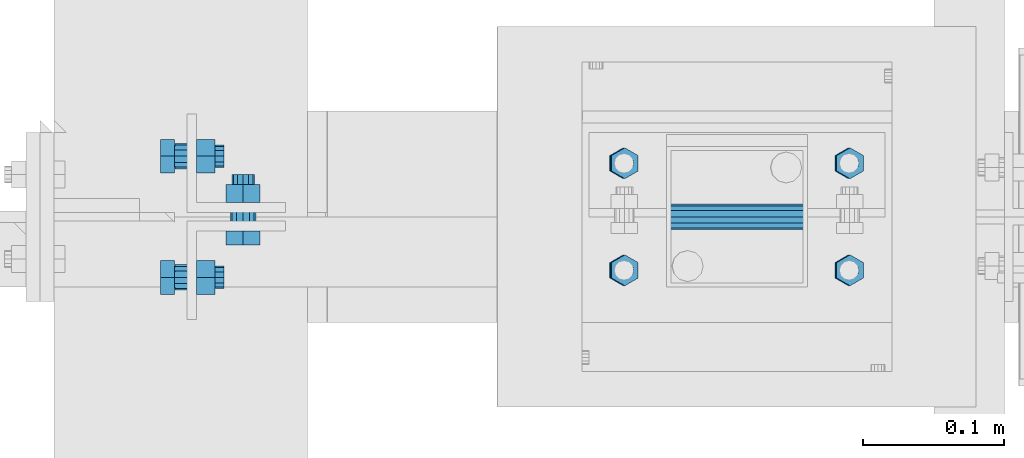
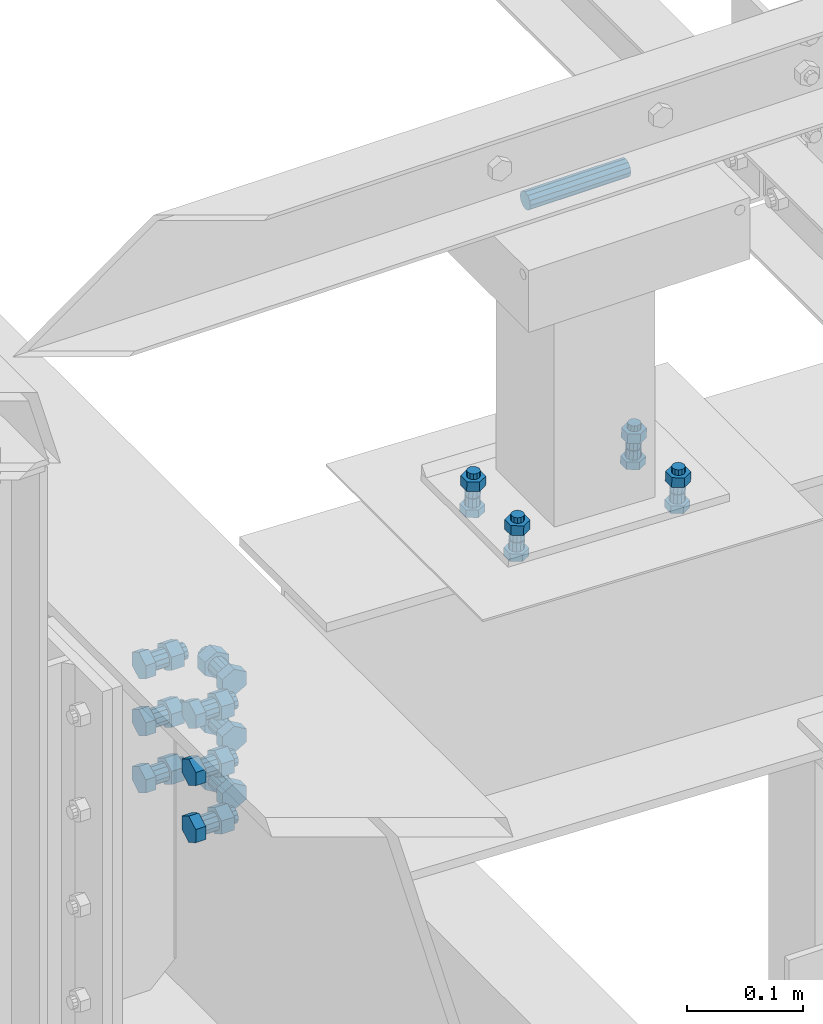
# One storey, part 61 of 3134: 5 mechanical fasteners, 3 elements without a shape of their own.
"""IFC2X3 building model written with IfcOpenShell, lengths in millimetres."""

from ifc_helpers import new_model, si_unit, frame, origin_with_axes, place, context, subcontext, project, spatial, faceted_brep, source, transform, mapped, material, type_object, element, aggregate, save


model = new_model("IFC2X3")

# Units and contexts
model_context = context("Model", 3, precision=1e-05, world=origin_with_axes())
body_context = subcontext(model_context, "Body", "Model", "MODEL_VIEW")
ifc_project = project(units=[si_unit("LENGTHUNIT", "METRE", prefix="MILLI"), si_unit("AREAUNIT", "SQUARE_METRE"), si_unit("VOLUMEUNIT", "CUBIC_METRE"), si_unit("MASSUNIT", "GRAM", prefix="KILO"), si_unit("TIMEUNIT", "SECOND"), si_unit("PLANEANGLEUNIT", "RADIAN"), si_unit("SOLIDANGLEUNIT", "STERADIAN"), si_unit("THERMODYNAMICTEMPERATUREUNIT", "DEGREE_CELSIUS"), si_unit("LUMINOUSINTENSITYUNIT", "LUMEN")], contexts=[model_context])

# Site, building, storey
site_placement = place(None, origin_with_axes())
site = spatial("IfcSite", under=ifc_project, at=site_placement, CompositionType="ELEMENT")
building_placement = place(site_placement, origin_with_axes())
building = spatial("IfcBuilding", under=site, at=building_placement, Name="Undefined", CompositionType="ELEMENT")
storey_placement = place(building_placement, origin_with_axes())
storey = spatial("IfcBuildingStorey", under=building, at=storey_placement, Name="Undefined", CompositionType="ELEMENT", Elevation=0.0)

# Assembly, mechanical fastener
assembly_1_placement = place(storey_placement, origin_with_axes())
assembly_1 = element("IfcElementAssembly", 1, at=assembly_1_placement, inside=storey, AssemblyPlace="NOTDEFINED", PredefinedType="RIGID_FRAME")
ifc_material = material(Name="8.8")
mechanical_fastener_type = type_object("IfcMechanicalFastenerType", Name="Bolt assembly")
shared_shape_1 = source(origin_with_axes(), body_context, "Body", "Brep", [
    faceted_brep([(13.856406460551, -18.5936482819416, 0.0), (6.92820323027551, -18.5936482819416, 12.0), (-6.92820323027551, -18.5936482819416, 12.0), (-13.856406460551, -18.5936482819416, 1.69692038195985e-15), (-6.92820323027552, -18.5936482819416, -12.0), (6.9282032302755, -18.5936482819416, -12.0), (6.9282032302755, -8.59364828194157, -12.0), (-6.92820323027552, -8.59364828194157, -12.0), (-13.856406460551, -8.59364828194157, 1.69692038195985e-15), (-6.92820323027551, -8.59364828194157, 12.0), (6.92820323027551, -8.59364828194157, 12.0), (13.856406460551, -8.59364828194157, 0.0), (8.0, -8.59364828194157, 0.0), (6.92820323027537, -8.59364828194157, 4.00000000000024), (3.99999999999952, -8.59364828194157, 6.92820323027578), (-8.29068785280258e-13, -8.59364828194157, 8.0), (-4.00000000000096, -8.59364828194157, 6.92820323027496), (-6.9282032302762, -8.59364828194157, 3.99999999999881), (-8.0, -8.59364828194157, -1.65813757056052e-12), (-6.92820323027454, -8.59364828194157, -4.00000000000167), (-3.99999999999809, -8.59364828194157, -6.92820323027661), (2.47832457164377e-12, -8.59364828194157, -8.0), (4.00000000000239, -8.59364828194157, -6.92820323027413), (6.92820323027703, -8.59364828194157, -3.99999999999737), (6.92820323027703, 26.4063517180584, -3.99999999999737), (4.00000000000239, 26.4063517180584, -6.92820323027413), (2.47832457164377e-12, 26.4063517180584, -8.0), (-3.99999999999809, 26.4063517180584, -6.92820323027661), (-6.92820323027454, 26.4063517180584, -4.00000000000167), (-8.0, 26.4063517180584, -1.65813757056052e-12), (-6.9282032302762, 26.4063517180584, 3.99999999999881), (-4.00000000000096, 26.4063517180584, 6.92820323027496), (-8.29068785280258e-13, 26.4063517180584, 8.0), (3.99999999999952, 26.4063517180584, 6.92820323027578), (6.92820323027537, 26.4063517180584, 4.00000000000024), (8.0, 26.4063517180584, 0.0), (13.856406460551, 7.0, 0.0), (6.92820323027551, 7.0, 12.0), (-6.92820323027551, 7.0, 12.0), (-13.856406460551, 7.0, 1.69692038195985e-15), (-6.92820323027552, 7.0, -12.0), (6.9282032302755, 7.0, -12.0), (6.9282032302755, 20.0, -12.0), (-6.92820323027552, 20.0, -12.0), (-13.856406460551, 20.0, 1.69692038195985e-15), (-6.92820323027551, 20.0, 12.0), (6.92820323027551, 20.0, 12.0), (13.856406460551, 20.0, 0.0)], [[[0, 1, 2, 3, 4, 5]], [[6, 7, 8, 9, 10, 11]], [[0, 11, 10, 1]], [[1, 10, 9, 2]], [[2, 9, 8, 3]], [[3, 8, 7, 4]], [[4, 7, 6, 5]], [[5, 6, 11, 0]], [[12, 13, 14, 15, 16, 17, 18, 19, 20, 21, 22, 23]], [[24, 25, 26, 27, 28, 29, 30, 31, 32, 33, 34, 35]], [[12, 35, 34, 13]], [[13, 34, 33, 14]], [[14, 33, 32, 15]], [[15, 32, 31, 16]], [[16, 31, 30, 17]], [[17, 30, 29, 18]], [[18, 29, 28, 19]], [[19, 28, 27, 20]], [[20, 27, 26, 21]], [[21, 26, 25, 22]], [[22, 25, 24, 23]], [[23, 24, 35, 12]], [[36, 37, 38, 39, 40, 41]], [[42, 43, 44, 45, 46, 47]], [[36, 47, 46, 37]], [[37, 46, 45, 38]], [[38, 45, 44, 39]], [[39, 44, 43, 40]], [[40, 43, 42, 41]], [[41, 42, 47, 36]]]),
    faceted_brep([(9.0, -8.49364828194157, 0.0), (7.79422863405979, -8.49364828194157, 4.50000000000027), (4.49999999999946, -8.49364828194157, 7.79422863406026), (-9.3270238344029e-13, -8.49364828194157, 9.0), (-4.50000000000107, -8.49364828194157, 7.79422863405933), (-7.79422863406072, -8.49364828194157, 4.49999999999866), (-9.0, -8.49364828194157, -1.86540476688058e-12), (-7.79422863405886, -8.49364828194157, -4.50000000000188), (-4.49999999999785, -8.49364828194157, -7.79422863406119), (2.78811514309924e-12, -8.49364828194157, -9.0), (4.50000000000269, -8.49364828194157, -7.7942286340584), (7.79422863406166, -8.49364828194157, -4.49999999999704), (7.79422863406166, 0.10635209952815, -4.49999999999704), (4.50000000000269, 0.10635209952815, -7.7942286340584), (2.78811514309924e-12, 0.10635209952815, -9.0), (-4.49999999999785, 0.10635209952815, -7.79422863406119), (-7.79422863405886, 0.10635209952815, -4.50000000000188), (-9.0, 0.10635209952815, -1.86540476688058e-12), (-7.79422863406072, 0.10635209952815, 4.49999999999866), (-4.50000000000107, 0.10635209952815, 7.79422863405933), (-9.3270238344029e-13, 0.10635209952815, 9.0), (4.49999999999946, 0.10635209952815, 7.79422863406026), (7.79422863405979, 0.10635209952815, 4.50000000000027), (9.0, 0.10635209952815, 0.0), (9.0, -0.1, 0.0), (7.79422863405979, -0.1, 4.50000000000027), (4.49999999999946, -0.1, 7.79422863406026), (-9.3270238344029e-13, -0.1, 9.0), (-4.50000000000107, -0.1, 7.79422863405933), (-7.79422863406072, -0.1, 4.49999999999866), (-9.0, -0.1, -1.86540476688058e-12), (-7.79422863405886, -0.1, -4.50000000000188), (-4.49999999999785, -0.1, -7.79422863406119), (2.78811514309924e-12, -0.1, -9.0), (4.50000000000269, -0.1, -7.7942286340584), (7.79422863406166, -0.1, -4.49999999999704), (7.79422863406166, 7.0, -4.49999999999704), (4.50000000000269, 7.0, -7.7942286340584), (2.78811514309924e-12, 7.0, -9.0), (-4.49999999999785, 7.0, -7.79422863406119), (-7.79422863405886, 7.0, -4.50000000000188), (-9.0, 7.0, -1.86540476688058e-12), (-7.79422863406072, 7.0, 4.49999999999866), (-4.50000000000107, 7.0, 7.79422863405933), (-9.3270238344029e-13, 7.0, 9.0), (4.49999999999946, 7.0, 7.79422863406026), (7.79422863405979, 7.0, 4.50000000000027), (9.0, 7.0, 0.0)], [[[0, 1, 2, 3, 4, 5, 6, 7, 8, 9, 10, 11]], [[12, 13, 14, 15, 16, 17, 18, 19, 20, 21, 22, 23]], [[0, 23, 22, 1]], [[1, 22, 21, 2]], [[2, 21, 20, 3]], [[3, 20, 19, 4]], [[4, 19, 18, 5]], [[5, 18, 17, 6]], [[6, 17, 16, 7]], [[7, 16, 15, 8]], [[8, 15, 14, 9]], [[9, 14, 13, 10]], [[10, 13, 12, 11]], [[11, 12, 23, 0]], [[24, 25, 26, 27, 28, 29, 30, 31, 32, 33, 34, 35]], [[36, 37, 38, 39, 40, 41, 42, 43, 44, 45, 46, 47]], [[24, 47, 46, 25]], [[25, 46, 45, 26]], [[26, 45, 44, 27]], [[27, 44, 43, 28]], [[28, 43, 42, 29]], [[29, 42, 41, 30]], [[30, 41, 40, 31]], [[31, 40, 39, 32]], [[32, 39, 38, 33]], [[33, 38, 37, 34]], [[34, 37, 36, 35]], [[35, 36, 47, 24]]]),
])
mechanical_fastener_1_placement = place(assembly_1_placement, frame((4.29364809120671, 24555.54, 3841.86727512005), z_axis=(0.0, 1.0, 0.0), x_axis=(0.0, 0.0, 1.0)))
mechanical_fastener_1 = element("IfcMechanicalFastener", 2, at=mechanical_fastener_1_placement, type_object=mechanical_fastener_type, material=ifc_material, Name="Bolt assembly", NominalDiameter=16.0, NominalLength=35.0, context=body_context, shape_type="MappedRepresentation", body=[
    mapped(shared_shape_1, transform((0.0, 0.0, 0.0))),
    mapped(shared_shape_1, transform((59.9999999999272, 0.0, 5.40239852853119e-10))),
    mapped(shared_shape_1, transform((120.0, 0.0, 0.0))),
])
aggregate(assembly_1, [mechanical_fastener_1])

# Assembly, mechanical fasteners
assembly_2_placement = place(storey_placement, origin_with_axes())
assembly_2 = element("IfcElementAssembly", 3, at=assembly_2_placement, inside=storey, AssemblyPlace="NOTDEFINED", PredefinedType="RIGID_FRAME")
mechanical_fastener_2_placement = place(assembly_2_placement, frame((4.29364809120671, 24469.46, 3841.86727512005), z_axis=(0.0, 1.0, 0.0), x_axis=(0.0, 0.0, 1.0)))
mechanical_fastener_2 = element("IfcMechanicalFastener", 4, at=mechanical_fastener_2_placement, type_object=mechanical_fastener_type, material=ifc_material, Name="Bolt assembly", NominalDiameter=16.0, NominalLength=35.0, context=body_context, shape_type="MappedRepresentation", body=[
    mapped(shared_shape_1, transform((0.0, 0.0, 0.0))),
    mapped(shared_shape_1, transform((59.9999999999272, 0.0, 5.40239852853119e-10))),
    mapped(shared_shape_1, transform((120.0, 0.0, 0.0))),
])
shared_shape_2 = source(origin_with_axes(), body_context, "Body", "Brep", [
    faceted_brep([(13.856406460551, -20.0400000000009, 0.0), (6.92820323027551, -20.0400000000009, 12.0), (-6.92820323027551, -20.0400000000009, 12.0), (-13.856406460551, -20.0400000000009, 1.69692038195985e-15), (-6.92820323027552, -20.0400000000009, -12.0), (6.9282032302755, -20.0400000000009, -12.0), (6.9282032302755, -10.0400000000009, -12.0), (-6.92820323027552, -10.0400000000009, -12.0), (-13.856406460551, -10.0400000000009, 1.69692038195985e-15), (-6.92820323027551, -10.0400000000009, 12.0), (6.92820323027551, -10.0400000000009, 12.0), (13.856406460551, -10.0400000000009, 0.0), (8.0, -10.0400000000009, 0.0), (6.92820323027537, -10.0400000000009, 4.00000000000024), (3.99999999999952, -10.0400000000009, 6.92820323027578), (-8.29068785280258e-13, -10.0400000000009, 8.0), (-4.00000000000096, -10.0400000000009, 6.92820323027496), (-6.9282032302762, -10.0400000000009, 3.99999999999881), (-8.0, -10.0400000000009, -1.65813757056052e-12), (-6.92820323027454, -10.0400000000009, -4.00000000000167), (-3.99999999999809, -10.0400000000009, -6.92820323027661), (2.47832457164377e-12, -10.0400000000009, -8.0), (4.00000000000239, -10.0400000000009, -6.92820323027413), (6.92820323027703, -10.0400000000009, -3.99999999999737), (6.92820323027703, 29.9599999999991, -3.99999999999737), (4.00000000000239, 29.9599999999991, -6.92820323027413), (2.47832457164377e-12, 29.9599999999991, -8.0), (-3.99999999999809, 29.9599999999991, -6.92820323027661), (-6.92820323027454, 29.9599999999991, -4.00000000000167), (-8.0, 29.9599999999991, -1.65813757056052e-12), (-6.9282032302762, 29.9599999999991, 3.99999999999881), (-4.00000000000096, 29.9599999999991, 6.92820323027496), (-8.29068785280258e-13, 29.9599999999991, 8.0), (3.99999999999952, 29.9599999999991, 6.92820323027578), (6.92820323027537, 29.9599999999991, 4.00000000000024), (8.0, 29.9599999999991, 0.0), (13.856406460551, 10.0400000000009, 0.0), (6.92820323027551, 10.0400000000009, 12.0), (-6.92820323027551, 10.0400000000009, 12.0), (-13.856406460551, 10.0400000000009, 1.69692038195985e-15), (-6.92820323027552, 10.0400000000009, -12.0), (6.9282032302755, 10.0400000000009, -12.0), (6.9282032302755, 23.0400000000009, -12.0), (-6.92820323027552, 23.0400000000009, -12.0), (-13.856406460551, 23.0400000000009, 1.69692038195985e-15), (-6.92820323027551, 23.0400000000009, 12.0), (6.92820323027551, 23.0400000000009, 12.0), (13.856406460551, 23.0400000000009, 0.0)], [[[0, 1, 2, 3, 4, 5]], [[6, 7, 8, 9, 10, 11]], [[0, 11, 10, 1]], [[1, 10, 9, 2]], [[2, 9, 8, 3]], [[3, 8, 7, 4]], [[4, 7, 6, 5]], [[5, 6, 11, 0]], [[12, 13, 14, 15, 16, 17, 18, 19, 20, 21, 22, 23]], [[24, 25, 26, 27, 28, 29, 30, 31, 32, 33, 34, 35]], [[12, 35, 34, 13]], [[13, 34, 33, 14]], [[14, 33, 32, 15]], [[15, 32, 31, 16]], [[16, 31, 30, 17]], [[17, 30, 29, 18]], [[18, 29, 28, 19]], [[19, 28, 27, 20]], [[20, 27, 26, 21]], [[21, 26, 25, 22]], [[22, 25, 24, 23]], [[23, 24, 35, 12]], [[36, 37, 38, 39, 40, 41]], [[42, 43, 44, 45, 46, 47]], [[36, 47, 46, 37]], [[37, 46, 45, 38]], [[38, 45, 44, 39]], [[39, 44, 43, 40]], [[40, 43, 42, 41]], [[41, 42, 47, 36]]]),
    faceted_brep([(9.0, -3.04999995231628, 0.0), (7.79422863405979, -3.04999995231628, 4.50000000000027), (4.49999999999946, -3.04999995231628, 7.79422863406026), (-9.3270238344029e-13, -3.04999995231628, 9.0), (-4.50000000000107, -3.04999995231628, 7.79422863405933), (-7.79422863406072, -3.04999995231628, 4.49999999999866), (-9.0, -3.04999995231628, -1.86540476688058e-12), (-7.79422863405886, -3.04999995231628, -4.50000000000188), (-4.49999999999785, -3.04999995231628, -7.79422863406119), (2.78811514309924e-12, -3.04999995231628, -9.0), (4.50000000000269, -3.04999995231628, -7.7942286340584), (7.79422863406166, -3.04999995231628, -4.49999999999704), (7.79422863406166, 3.04999995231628, -4.49999999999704), (4.50000000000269, 3.04999995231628, -7.7942286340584), (2.78811514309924e-12, 3.04999995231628, -9.0), (-4.49999999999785, 3.04999995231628, -7.79422863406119), (-7.79422863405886, 3.04999995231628, -4.50000000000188), (-9.0, 3.04999995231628, -1.86540476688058e-12), (-7.79422863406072, 3.04999995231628, 4.49999999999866), (-4.50000000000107, 3.04999995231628, 7.79422863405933), (-9.3270238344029e-13, 3.04999995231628, 9.0), (4.49999999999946, 3.04999995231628, 7.79422863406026), (7.79422863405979, 3.04999995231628, 4.50000000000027), (9.0, 3.04999995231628, 0.0), (9.0, -9.94000000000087, 0.0), (7.79422863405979, -9.94000000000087, 4.50000000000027), (4.49999999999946, -9.94000000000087, 7.79422863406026), (-9.3270238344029e-13, -9.94000000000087, 9.0), (-4.50000000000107, -9.94000000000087, 7.79422863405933), (-7.79422863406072, -9.94000000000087, 4.49999999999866), (-9.0, -9.94000000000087, -1.86540476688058e-12), (-7.79422863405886, -9.94000000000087, -4.50000000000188), (-4.49999999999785, -9.94000000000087, -7.79422863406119), (2.78811514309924e-12, -9.94000000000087, -9.0), (4.50000000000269, -9.94000000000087, -7.7942286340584), (7.79422863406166, -9.94000000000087, -4.49999999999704), (7.79422863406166, -2.94000000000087, -4.49999999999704), (4.50000000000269, -2.94000000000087, -7.7942286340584), (2.78811514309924e-12, -2.94000000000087, -9.0), (-4.49999999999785, -2.94000000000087, -7.79422863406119), (-7.79422863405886, -2.94000000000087, -4.50000000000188), (-9.0, -2.94000000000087, -1.86540476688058e-12), (-7.79422863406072, -2.94000000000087, 4.49999999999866), (-4.50000000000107, -2.94000000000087, 7.79422863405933), (-9.3270238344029e-13, -2.94000000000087, 9.0), (4.49999999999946, -2.94000000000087, 7.79422863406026), (7.79422863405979, -2.94000000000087, 4.50000000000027), (9.0, -2.94000000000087, 0.0), (9.0, 2.94000000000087, 0.0), (7.79422863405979, 2.94000000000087, 4.50000000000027), (4.49999999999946, 2.94000000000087, 7.79422863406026), (-9.3270238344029e-13, 2.94000000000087, 9.0), (-4.50000000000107, 2.94000000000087, 7.79422863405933), (-7.79422863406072, 2.94000000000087, 4.49999999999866), (-9.0, 2.94000000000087, -1.86540476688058e-12), (-7.79422863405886, 2.94000000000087, -4.50000000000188), (-4.49999999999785, 2.94000000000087, -7.79422863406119), (2.78811514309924e-12, 2.94000000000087, -9.0), (4.50000000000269, 2.94000000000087, -7.7942286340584), (7.79422863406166, 2.94000000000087, -4.49999999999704), (7.79422863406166, 10.0400000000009, -4.49999999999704), (4.50000000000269, 10.0400000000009, -7.7942286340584), (2.78811514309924e-12, 10.0400000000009, -9.0), (-4.49999999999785, 10.0400000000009, -7.79422863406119), (-7.79422863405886, 10.0400000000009, -4.50000000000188), (-9.0, 10.0400000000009, -1.86540476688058e-12), (-7.79422863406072, 10.0400000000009, 4.49999999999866), (-4.50000000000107, 10.0400000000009, 7.79422863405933), (-9.3270238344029e-13, 10.0400000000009, 9.0), (4.49999999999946, 10.0400000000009, 7.79422863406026), (7.79422863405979, 10.0400000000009, 4.50000000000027), (9.0, 10.0400000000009, 0.0)], [[[0, 1, 2, 3, 4, 5, 6, 7, 8, 9, 10, 11]], [[12, 13, 14, 15, 16, 17, 18, 19, 20, 21, 22, 23]], [[0, 23, 22, 1]], [[1, 22, 21, 2]], [[2, 21, 20, 3]], [[3, 20, 19, 4]], [[4, 19, 18, 5]], [[5, 18, 17, 6]], [[6, 17, 16, 7]], [[7, 16, 15, 8]], [[8, 15, 14, 9]], [[9, 14, 13, 10]], [[10, 13, 12, 11]], [[11, 12, 23, 0]], [[24, 25, 26, 27, 28, 29, 30, 31, 32, 33, 34, 35]], [[36, 37, 38, 39, 40, 41, 42, 43, 44, 45, 46, 47]], [[24, 47, 46, 25]], [[25, 46, 45, 26]], [[26, 45, 44, 27]], [[27, 44, 43, 28]], [[28, 43, 42, 29]], [[29, 42, 41, 30]], [[30, 41, 40, 31]], [[31, 40, 39, 32]], [[32, 39, 38, 33]], [[33, 38, 37, 34]], [[34, 37, 36, 35]], [[35, 36, 47, 24]], [[48, 49, 50, 51, 52, 53, 54, 55, 56, 57, 58, 59]], [[60, 61, 62, 63, 64, 65, 66, 67, 68, 69, 70, 71]], [[48, 71, 70, 49]], [[49, 70, 69, 50]], [[50, 69, 68, 51]], [[51, 68, 67, 52]], [[52, 67, 66, 53]], [[53, 66, 65, 54]], [[54, 65, 64, 55]], [[55, 64, 63, 56]], [[56, 63, 62, 57]], [[57, 62, 61, 58]], [[58, 61, 60, 59]], [[59, 60, 71, 48]]]),
])
mechanical_fastener_3_placement = place(assembly_2_placement, frame((44.2936480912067, 24512.5, 3841.86727512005), z_axis=(-1.0, 0.0, 0.0), x_axis=(0.0, 0.0, 1.0)))
mechanical_fastener_3 = element("IfcMechanicalFastener", 5, at=mechanical_fastener_3_placement, type_object=mechanical_fastener_type, material=ifc_material, Name="Bolt assembly", NominalDiameter=16.0, NominalLength=40.0, context=body_context, shape_type="MappedRepresentation", body=[
    mapped(shared_shape_2, transform((0.0, 0.0, 0.0))),
    mapped(shared_shape_2, transform((59.9999999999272, 0.0, 5.40239852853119e-10))),
    mapped(shared_shape_2, transform((120.0, 0.0, 0.0))),
])
aggregate(assembly_2, [mechanical_fastener_2, mechanical_fastener_3])

assembly_3_placement = place(storey_placement, origin_with_axes())
assembly_3 = element("IfcElementAssembly", 6, at=assembly_3_placement, inside=storey, AssemblyPlace="NOTDEFINED", PredefinedType="RIGID_FRAME")
shared_shape_3 = source(origin_with_axes(), body_context, "Body", "Brep", [
    faceted_brep([(10.9696551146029, -4.19432770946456, 0.0), (5.48482755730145, -4.19432770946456, 9.5), (-5.48482755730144, -4.19432770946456, 9.5), (-10.9696551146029, -4.19432770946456, 1.34339530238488e-15), (-5.48482755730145, -4.19432770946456, -9.5), (5.48482755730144, -4.19432770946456, -9.50000000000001), (5.48482755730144, 3.80567229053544, -9.50000000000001), (-5.48482755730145, 3.80567229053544, -9.5), (-10.9696551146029, 3.80567229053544, 1.34339530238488e-15), (-5.48482755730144, 3.80567229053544, 9.5), (5.48482755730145, 3.80567229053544, 9.5), (10.9696551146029, 3.80567229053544, 0.0), (6.0, 3.80567229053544, 0.0), (5.19615242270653, 3.80567229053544, 3.00000000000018), (2.99999999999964, 3.80567229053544, 5.19615242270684), (-6.21801588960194e-13, 3.80567229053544, 6.0), (-3.00000000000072, 3.80567229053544, 5.19615242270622), (-5.19615242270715, 3.80567229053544, 2.9999999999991), (-6.0, 3.80567229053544, -1.24360317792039e-12), (-5.19615242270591, 3.80567229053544, -3.00000000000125), (-2.99999999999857, 3.80567229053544, -5.19615242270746), (1.85874342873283e-12, 3.80567229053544, -6.0), (3.00000000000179, 3.80567229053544, -5.1961524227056), (5.19615242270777, 3.80567229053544, -2.99999999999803), (5.19615242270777, 38.8056722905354, -2.99999999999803), (3.00000000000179, 38.8056722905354, -5.1961524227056), (1.85874342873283e-12, 38.8056722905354, -6.0), (-2.99999999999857, 38.8056722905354, -5.19615242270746), (-5.19615242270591, 38.8056722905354, -3.00000000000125), (-6.0, 38.8056722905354, -1.24360317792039e-12), (-5.19615242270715, 38.8056722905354, 2.9999999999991), (-3.00000000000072, 38.8056722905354, 5.19615242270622), (-6.21801588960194e-13, 38.8056722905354, 6.0), (2.99999999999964, 38.8056722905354, 5.19615242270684), (5.19615242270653, 38.8056722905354, 3.00000000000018), (6.0, 38.8056722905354, 0.0), (10.9696551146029, 23.0139082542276, 0.0), (5.48482755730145, 23.0139082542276, 9.5), (-5.48482755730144, 23.0139082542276, 9.5), (-10.9696551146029, 23.0139082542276, 1.34339530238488e-15), (-5.48482755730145, 23.0139082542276, -9.5), (5.48482755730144, 23.0139082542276, -9.50000000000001), (5.48482755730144, 33.0139082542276, -9.50000000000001), (-5.48482755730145, 33.0139082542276, -9.5), (-10.9696551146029, 33.0139082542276, 1.34339530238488e-15), (-5.48482755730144, 33.0139082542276, 9.5), (5.48482755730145, 33.0139082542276, 9.5), (10.9696551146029, 33.0139082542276, 0.0)], [[[0, 1, 2, 3, 4, 5]], [[6, 7, 8, 9, 10, 11]], [[0, 11, 10, 1]], [[1, 10, 9, 2]], [[2, 9, 8, 3]], [[3, 8, 7, 4]], [[4, 7, 6, 5]], [[5, 6, 11, 0]], [[12, 13, 14, 15, 16, 17, 18, 19, 20, 21, 22, 23]], [[24, 25, 26, 27, 28, 29, 30, 31, 32, 33, 34, 35]], [[12, 35, 34, 13]], [[13, 34, 33, 14]], [[14, 33, 32, 15]], [[15, 32, 31, 16]], [[16, 31, 30, 17]], [[17, 30, 29, 18]], [[18, 29, 28, 19]], [[19, 28, 27, 20]], [[20, 27, 26, 21]], [[21, 26, 25, 22]], [[22, 25, 24, 23]], [[23, 24, 35, 12]], [[36, 37, 38, 39, 40, 41]], [[42, 43, 44, 45, 46, 47]], [[36, 47, 46, 37]], [[37, 46, 45, 38]], [[38, 45, 44, 39]], [[39, 44, 43, 40]], [[40, 43, 42, 41]], [[41, 42, 47, 36]]]),
    faceted_brep([(7.0, 3.90567229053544, 0.0), (6.06217782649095, 3.90567229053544, 3.50000000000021), (3.49999999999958, 3.90567229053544, 6.06217782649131), (-7.25435187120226e-13, 3.90567229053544, 7.0), (-3.50000000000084, 3.90567229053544, 6.06217782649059), (-6.06217782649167, 3.90567229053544, 3.49999999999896), (-7.0, 3.90567229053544, -1.45087037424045e-12), (-6.06217782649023, 3.90567229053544, -3.50000000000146), (-3.49999999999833, 3.90567229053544, -6.06217782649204), (2.1685340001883e-12, 3.90567229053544, -7.0), (3.50000000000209, 3.90567229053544, -6.06217782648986), (6.0621778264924, 3.90567229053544, -3.4999999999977), (6.0621778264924, 13.1056721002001, -3.4999999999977), (3.50000000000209, 13.1056721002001, -6.06217782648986), (2.1685340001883e-12, 13.1056721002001, -7.0), (-3.49999999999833, 13.1056721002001, -6.06217782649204), (-6.06217782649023, 13.1056721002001, -3.50000000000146), (-7.0, 13.1056721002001, -1.45087037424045e-12), (-6.06217782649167, 13.1056721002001, 3.49999999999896), (-3.50000000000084, 13.1056721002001, 6.06217782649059), (-7.25435187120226e-13, 13.1056721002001, 7.0), (3.49999999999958, 13.1056721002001, 6.06217782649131), (6.06217782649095, 13.1056721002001, 3.50000000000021), (7.0, 13.1056721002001, 0.0), (7.0, 14.9139082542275, 0.0), (6.06217782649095, 14.9139082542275, 3.50000000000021), (3.49999999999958, 14.9139082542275, 6.06217782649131), (-7.25435187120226e-13, 14.9139082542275, 7.0), (-3.50000000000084, 14.9139082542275, 6.06217782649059), (-6.06217782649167, 14.9139082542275, 3.49999999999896), (-7.0, 14.9139082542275, -1.45087037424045e-12), (-6.06217782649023, 14.9139082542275, -3.50000000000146), (-3.49999999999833, 14.9139082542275, -6.06217782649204), (2.1685340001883e-12, 14.9139082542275, -7.0), (3.50000000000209, 14.9139082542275, -6.06217782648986), (6.0621778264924, 14.9139082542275, -3.4999999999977), (6.0621778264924, 23.0139082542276, -3.4999999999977), (3.50000000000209, 23.0139082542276, -6.06217782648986), (2.1685340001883e-12, 23.0139082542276, -7.0), (-3.49999999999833, 23.0139082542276, -6.06217782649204), (-6.06217782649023, 23.0139082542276, -3.50000000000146), (-7.0, 23.0139082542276, -1.45087037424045e-12), (-6.06217782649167, 23.0139082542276, 3.49999999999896), (-3.50000000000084, 23.0139082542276, 6.06217782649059), (-7.25435187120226e-13, 23.0139082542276, 7.0), (3.49999999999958, 23.0139082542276, 6.06217782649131), (6.06217782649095, 23.0139082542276, 3.50000000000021), (7.0, 23.0139082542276, 0.0)], [[[0, 1, 2, 3, 4, 5, 6, 7, 8, 9, 10, 11]], [[12, 13, 14, 15, 16, 17, 18, 19, 20, 21, 22, 23]], [[0, 23, 22, 1]], [[1, 22, 21, 2]], [[2, 21, 20, 3]], [[3, 20, 19, 4]], [[4, 19, 18, 5]], [[5, 18, 17, 6]], [[6, 17, 16, 7]], [[7, 16, 15, 8]], [[8, 15, 14, 9]], [[9, 14, 13, 10]], [[10, 13, 12, 11]], [[11, 12, 23, 0]], [[24, 25, 26, 27, 28, 29, 30, 31, 32, 33, 34, 35]], [[36, 37, 38, 39, 40, 41, 42, 43, 44, 45, 46, 47]], [[24, 47, 46, 25]], [[25, 46, 45, 26]], [[26, 45, 44, 27]], [[27, 44, 43, 28]], [[28, 43, 42, 29]], [[29, 42, 41, 30]], [[30, 41, 40, 31]], [[31, 40, 39, 32]], [[32, 39, 38, 33]], [[33, 38, 37, 34]], [[34, 37, 36, 35]], [[35, 36, 47, 24]]]),
])
mechanical_fastener_4_placement = place(assembly_3_placement, frame((394.193176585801, 24550.4999999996, 4013.19000668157), z_axis=(-0.999387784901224, 0.0, 0.0349865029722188), x_axis=(0.0, -1.0, 0.0)))
mechanical_fastener_4 = element("IfcMechanicalFastener", 7, at=mechanical_fastener_4_placement, type_object=mechanical_fastener_type, material=ifc_material, Name="Bolt assembly", NominalDiameter=12.0, NominalLength=35.0, context=body_context, shape_type="MappedRepresentation", body=[
    mapped(shared_shape_3, transform((0.0, -5.32963895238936e-10, -79.9999999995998))),
    mapped(shared_shape_3, transform((76.0, -5.32963895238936e-10, -79.9999999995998))),
    mapped(shared_shape_3, transform((0.0, 5.3114490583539e-10, 79.9999999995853))),
    mapped(shared_shape_3, transform((76.0, 5.3114490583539e-10, 79.9999999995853))),
])
shared_shape_4 = source(origin_with_axes(), body_context, "Body", "Brep", [
    faceted_brep([(9.0, -50.0, 0.0), (7.79422863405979, -50.0, 4.50000000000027), (4.49999999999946, -50.0, 7.79422863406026), (-9.3270238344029e-13, -50.0, 9.0), (-4.50000000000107, -50.0, 7.79422863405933), (-7.79422863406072, -50.0, 4.49999999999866), (-9.0, -50.0, -1.86540476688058e-12), (-7.79422863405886, -50.0, -4.50000000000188), (-4.49999999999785, -50.0, -7.79422863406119), (2.78811514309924e-12, -50.0, -9.0), (4.50000000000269, -50.0, -7.7942286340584), (7.79422863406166, -50.0, -4.49999999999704), (7.79422863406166, 50.1, -4.49999999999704), (4.50000000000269, 50.1, -7.7942286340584), (2.78811514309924e-12, 50.1, -9.0), (-4.49999999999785, 50.1, -7.79422863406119), (-7.79422863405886, 50.1, -4.50000000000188), (-9.0, 50.1, -1.86540476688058e-12), (-7.79422863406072, 50.1, 4.49999999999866), (-4.50000000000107, 50.1, 7.79422863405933), (-9.3270238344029e-13, 50.1, 9.0), (4.49999999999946, 50.1, 7.79422863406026), (7.79422863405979, 50.1, 4.50000000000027), (9.0, 50.1, 0.0)], [[[0, 1, 2, 3, 4, 5, 6, 7, 8, 9, 10, 11]], [[12, 13, 14, 15, 16, 17, 18, 19, 20, 21, 22, 23]], [[0, 23, 22, 1]], [[1, 22, 21, 2]], [[2, 21, 20, 3]], [[3, 20, 19, 4]], [[4, 19, 18, 5]], [[5, 18, 17, 6]], [[6, 17, 16, 7]], [[7, 16, 15, 8]], [[8, 15, 14, 9]], [[9, 14, 13, 10]], [[10, 13, 12, 11]], [[11, 12, 23, 0]]]),
])
mechanical_fastener_5_placement = place(assembly_3_placement, frame((395.0, 24512.5, 4351.0), z_axis=(0.0, 1.0, 0.0), x_axis=(0.0, 0.0, 1.0)))
mechanical_fastener_5 = element("IfcMechanicalFastener", 8, at=mechanical_fastener_5_placement, type_object=mechanical_fastener_type, material=ifc_material, Name="Bolt assembly", NominalDiameter=16.0, NominalLength=100.0, context=body_context, shape_type="MappedRepresentation", body=[
    mapped(shared_shape_4, transform((0.0, 0.0, 0.0))),
])
aggregate(assembly_3, [mechanical_fastener_4, mechanical_fastener_5])

save(model, "model.ifc")
